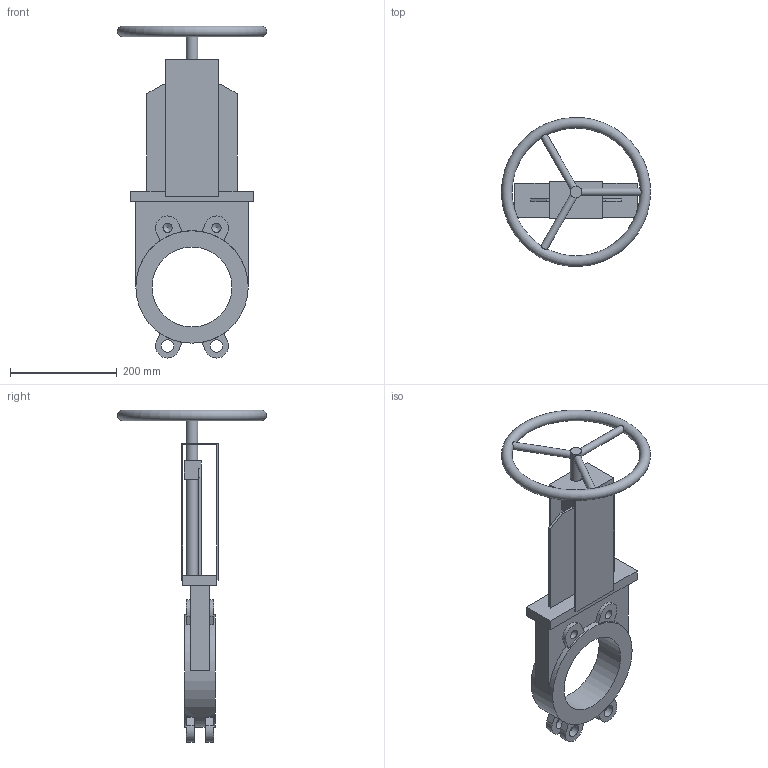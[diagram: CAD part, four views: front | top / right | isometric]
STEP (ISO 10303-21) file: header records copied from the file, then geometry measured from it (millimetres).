
FILE_DESCRIPTION(('STEP AP203'), '1');
FILE_NAME('Çàäâèæêà øèáåðíàÿ ìåæôëàíöåâàÿ K21GV DN150', '', ('UNSPECIFIED'), ('UNSPECIFIED'), 'ASCON STEP Converter 1.6', 'ASCON Math Kernel', '');
FILE_SCHEMA(('CONFIG_CONTROL_DESIGN'));
Length unit declared in the file: millimetre
Bounding box: 279.95 x 279.48 x 623.34 mm (x, y, z)
Volume: 2764586 mm3; surface area: 460036 mm2
Topology: 1 solids, 1 shells, 93 faces, 252 edges, 165 vertices
Faces by surface type: plane 64, cylinder 24, cone 4, torus 1
Full cylindrical faces by diameter (mm): 14 x3, 17.294 x4, 22 x3, 23 x4, 150 x1, 211 x1
Entity records: 4776 total; most frequent: CARTESIAN_POINT 1690, DIRECTION 466, ORIENTED_EDGE 448, EDGE_CURVE 224, VERTEX_POINT 160, AXIS2_PLACEMENT_3D 156, LINE 154, VECTOR 154
